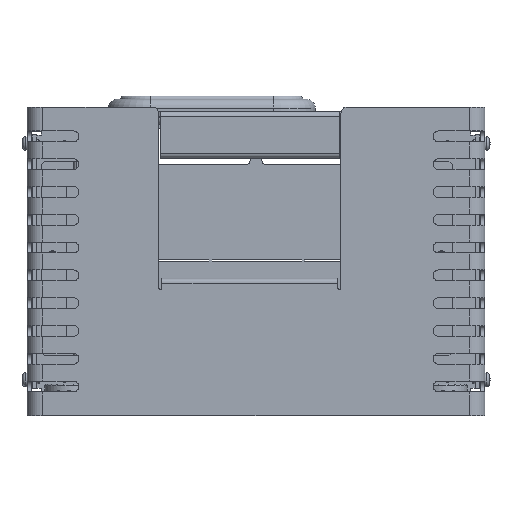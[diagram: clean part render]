
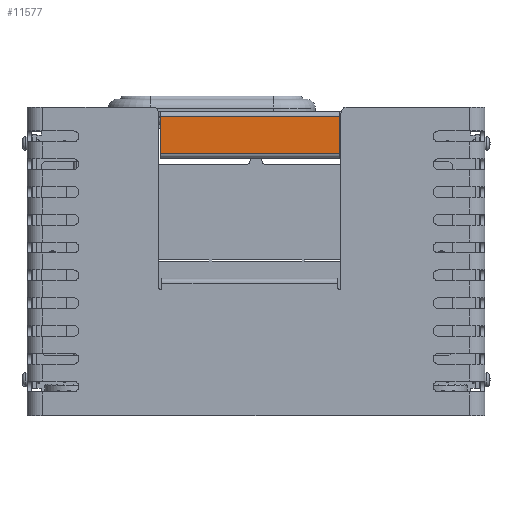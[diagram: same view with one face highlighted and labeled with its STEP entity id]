
A CAD part, top view. The second image highlights one B-rep face of the part: STEP entity #11577.
In plain terms, the highlighted planar face has unit normal (0, 0, 1).
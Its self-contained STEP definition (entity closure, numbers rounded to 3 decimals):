
#407=PLANE('',#12418);
#774=FACE_OUTER_BOUND('',#1407,.T.);
#1407=EDGE_LOOP('',(#8613,#8614,#8615,#8616));
#2153=LINE('',#17568,#3349);
#2165=LINE('',#17594,#3361);
#2255=LINE('',#17788,#3451);
#2256=LINE('',#17791,#3452);
#3349=VECTOR('',#13947,10.);
#3361=VECTOR('',#13969,10.);
#3451=VECTOR('',#14217,10.);
#3452=VECTOR('',#14222,10.);
#5123=VERTEX_POINT('',#17565);
#5124=VERTEX_POINT('',#17567);
#5132=VERTEX_POINT('',#17591);
#5133=VERTEX_POINT('',#17593);
#6350=EDGE_CURVE('',#5124,#5123,#2153,.T.);
#6364=EDGE_CURVE('',#5132,#5133,#2165,.T.);
#6464=EDGE_CURVE('',#5133,#5123,#2255,.T.);
#6465=EDGE_CURVE('',#5124,#5132,#2256,.T.);
#8613=ORIENTED_EDGE('',*,*,#6464,.F.);
#8614=ORIENTED_EDGE('',*,*,#6364,.F.);
#8615=ORIENTED_EDGE('',*,*,#6465,.F.);
#8616=ORIENTED_EDGE('',*,*,#6350,.T.);
#11577=ADVANCED_FACE('',(#774),#407,.T.);
#12418=AXIS2_PLACEMENT_3D('',#17790,#14220,#14221);
#13947=DIRECTION('',(0.,-1.,0.));
#13969=DIRECTION('',(0.,-1.,0.));
#14217=DIRECTION('',(-1.,0.,0.));
#14220=DIRECTION('center_axis',(0.,0.,1.));
#14221=DIRECTION('ref_axis',(-1.,0.,0.));
#14222=DIRECTION('',(1.,0.,0.));
#17565=CARTESIAN_POINT('',(-31.,39.75,36.));
#17567=CARTESIAN_POINT('',(-31.,51.75,36.));
#17568=CARTESIAN_POINT('',(-31.,53.25,36.));
#17591=CARTESIAN_POINT('',(27.,51.75,36.));
#17593=CARTESIAN_POINT('',(27.,39.75,36.));
#17594=CARTESIAN_POINT('',(27.,53.25,36.));
#17788=CARTESIAN_POINT('',(12.5,39.75,36.));
#17790=CARTESIAN_POINT('Origin',(27.,53.25,36.));
#17791=CARTESIAN_POINT('',(13.5,51.75,36.));
